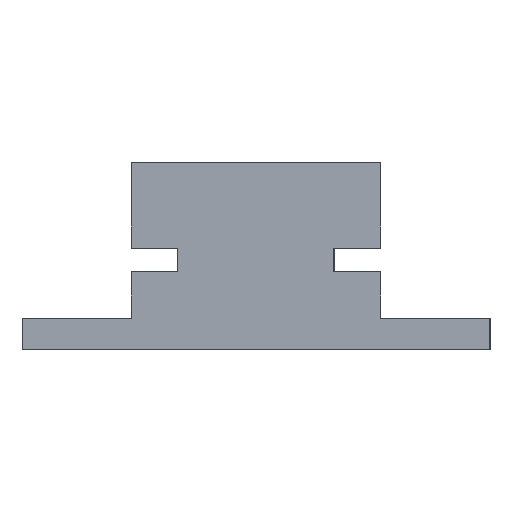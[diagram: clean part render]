
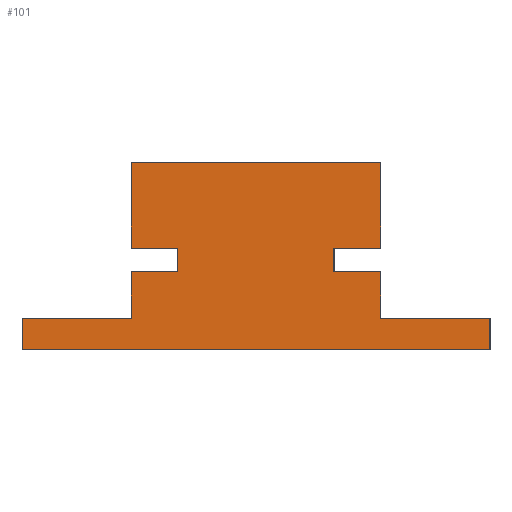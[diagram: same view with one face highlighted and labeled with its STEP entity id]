
A CAD part, left-side view. The second image highlights one B-rep face of the part: STEP entity #101.
In plain terms, the highlighted planar face has unit normal (-1, 0, 0).
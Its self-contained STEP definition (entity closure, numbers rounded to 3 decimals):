
#6 = VERTEX_POINT ( 'NONE', #417 ) ;
#7 = VERTEX_POINT ( 'NONE', #132 ) ;
#9 = ORIENTED_EDGE ( 'NONE', *, *, #479, .F. ) ;
#20 = VERTEX_POINT ( 'NONE', #185 ) ;
#21 = VECTOR ( 'NONE', #117, 1000. ) ;
#23 = CARTESIAN_POINT ( 'NONE',  ( 0., -5., 5. ) ) ;
#30 = EDGE_CURVE ( 'NONE', #567, #100, #301, .T. ) ;
#31 = CARTESIAN_POINT ( 'NONE',  ( 0., -7.997, 12. ) ) ;
#40 = EDGE_CURVE ( 'NONE', #240, #516, #476, .T. ) ;
#41 = CARTESIAN_POINT ( 'NONE',  ( 0., -7.997, 5. ) ) ;
#43 = DIRECTION ( 'NONE',  ( 1., 0., 0. ) ) ;
#51 = DIRECTION ( 'NONE',  ( 0., 0., -1. ) ) ;
#52 = DIRECTION ( 'NONE',  ( 0., 0., 1. ) ) ;
#56 = CARTESIAN_POINT ( 'NONE',  ( 0., -15., 2. ) ) ;
#63 = LINE ( 'NONE', #549, #172 ) ;
#74 = VECTOR ( 'NONE', #590, 1000. ) ;
#79 = DIRECTION ( 'NONE',  ( 0., 0., 1. ) ) ;
#80 = CARTESIAN_POINT ( 'NONE',  ( 0., -7.997, 6.5 ) ) ;
#87 = CARTESIAN_POINT ( 'NONE',  ( 0., 8.003, 2. ) ) ;
#91 = EDGE_CURVE ( 'NONE', #20, #376, #107, .T. ) ;
#95 = DIRECTION ( 'NONE',  ( 0., 0., -1. ) ) ;
#100 = VERTEX_POINT ( 'NONE', #270 ) ;
#101 = ADVANCED_FACE ( 'NONE', ( #160 ), #591, .F. ) ;
#103 = ORIENTED_EDGE ( 'NONE', *, *, #127, .F. ) ;
#107 = LINE ( 'NONE', #235, #520 ) ;
#117 = DIRECTION ( 'NONE',  ( 0., 0., -1. ) ) ;
#124 = CARTESIAN_POINT ( 'NONE',  ( 0., 15., 0. ) ) ;
#127 = EDGE_CURVE ( 'NONE', #7, #6, #150, .T. ) ;
#129 = CARTESIAN_POINT ( 'NONE',  ( 0., -15., 2. ) ) ;
#131 = DIRECTION ( 'NONE',  ( 0., -1., 0. ) ) ;
#132 = CARTESIAN_POINT ( 'NONE',  ( 0., 8.003, 5. ) ) ;
#137 = ORIENTED_EDGE ( 'NONE', *, *, #485, .F. ) ;
#141 = VERTEX_POINT ( 'NONE', #322 ) ;
#142 = ORIENTED_EDGE ( 'NONE', *, *, #562, .F. ) ;
#145 = EDGE_CURVE ( 'NONE', #376, #307, #183, .T. ) ;
#149 = LINE ( 'NONE', #316, #537 ) ;
#150 = LINE ( 'NONE', #232, #199 ) ;
#152 = EDGE_CURVE ( 'NONE', #291, #584, #269, .T. ) ;
#157 = ORIENTED_EDGE ( 'NONE', *, *, #492, .F. ) ;
#160 = FACE_OUTER_BOUND ( 'NONE', #254, .T. ) ;
#161 = EDGE_CURVE ( 'NONE', #6, #20, #167, .T. ) ;
#167 = LINE ( 'NONE', #321, #74 ) ;
#169 = CARTESIAN_POINT ( 'NONE',  ( 0., -5., 6.5 ) ) ;
#172 = VECTOR ( 'NONE', #233, 1000. ) ;
#178 = DIRECTION ( 'NONE',  ( 0., 1., 0. ) ) ;
#183 = LINE ( 'NONE', #470, #533 ) ;
#185 = CARTESIAN_POINT ( 'NONE',  ( 0., 5., 6.5 ) ) ;
#195 = ORIENTED_EDGE ( 'NONE', *, *, #241, .F. ) ;
#198 = LINE ( 'NONE', #495, #21 ) ;
#199 = VECTOR ( 'NONE', #275, 1000. ) ;
#215 = VERTEX_POINT ( 'NONE', #314 ) ;
#221 = EDGE_CURVE ( 'NONE', #337, #215, #362, .T. ) ;
#224 = DIRECTION ( 'NONE',  ( 0., 0., 1. ) ) ;
#230 = CARTESIAN_POINT ( 'NONE',  ( 0., -15., 0. ) ) ;
#232 = CARTESIAN_POINT ( 'NONE',  ( 0., 8.003, 5. ) ) ;
#233 = DIRECTION ( 'NONE',  ( 0., 1., 0. ) ) ;
#235 = CARTESIAN_POINT ( 'NONE',  ( 0., 5., 6.5 ) ) ;
#240 = VERTEX_POINT ( 'NONE', #363 ) ;
#241 = EDGE_CURVE ( 'NONE', #215, #554, #556, .T. ) ;
#254 = EDGE_LOOP ( 'NONE', ( #587, #572, #586, #103, #570, #195, #264, #432, #317, #402, #536, #9, #157, #294, #137, #142 ) ) ;
#256 = VECTOR ( 'NONE', #224, 1000. ) ;
#260 = CARTESIAN_POINT ( 'NONE',  ( 0., 8.003, 6.5 ) ) ;
#264 = ORIENTED_EDGE ( 'NONE', *, *, #221, .F. ) ;
#269 = LINE ( 'NONE', #56, #380 ) ;
#270 = CARTESIAN_POINT ( 'NONE',  ( 0., -7.997, 2. ) ) ;
#275 = DIRECTION ( 'NONE',  ( 0., -1., 0. ) ) ;
#285 = VERTEX_POINT ( 'NONE', #411 ) ;
#291 = VERTEX_POINT ( 'NONE', #129 ) ;
#294 = ORIENTED_EDGE ( 'NONE', *, *, #40, .F. ) ;
#300 = VECTOR ( 'NONE', #305, 1000. ) ;
#301 = LINE ( 'NONE', #364, #429 ) ;
#305 = DIRECTION ( 'NONE',  ( 0., -1., 0. ) ) ;
#307 = VERTEX_POINT ( 'NONE', #448 ) ;
#308 = LINE ( 'NONE', #579, #300 ) ;
#310 = CARTESIAN_POINT ( 'NONE',  ( 0., 15., 2. ) ) ;
#313 = DIRECTION ( 'NONE',  ( 0., 1., 0. ) ) ;
#314 = CARTESIAN_POINT ( 'NONE',  ( 0., 15., 2. ) ) ;
#315 = AXIS2_PLACEMENT_3D ( 'NONE', #511, #43, #367 ) ;
#316 = CARTESIAN_POINT ( 'NONE',  ( 0., 8.003, 12. ) ) ;
#317 = ORIENTED_EDGE ( 'NONE', *, *, #152, .F. ) ;
#318 = LINE ( 'NONE', #31, #517 ) ;
#321 = CARTESIAN_POINT ( 'NONE',  ( 0., 5., 5. ) ) ;
#322 = CARTESIAN_POINT ( 'NONE',  ( 0., -5., 5. ) ) ;
#337 = VERTEX_POINT ( 'NONE', #469 ) ;
#362 = LINE ( 'NONE', #124, #419 ) ;
#363 = CARTESIAN_POINT ( 'NONE',  ( 0., -7.997, 6.5 ) ) ;
#364 = CARTESIAN_POINT ( 'NONE',  ( 0., -7.997, 5. ) ) ;
#367 = DIRECTION ( 'NONE',  ( 0., 0., -1. ) ) ;
#376 = VERTEX_POINT ( 'NONE', #260 ) ;
#379 = LINE ( 'NONE', #87, #256 ) ;
#380 = VECTOR ( 'NONE', #95, 1000. ) ;
#392 = VECTOR ( 'NONE', #178, 1000. ) ;
#401 = DIRECTION ( 'NONE',  ( 0., 0., -1. ) ) ;
#402 = ORIENTED_EDGE ( 'NONE', *, *, #413, .F. ) ;
#411 = CARTESIAN_POINT ( 'NONE',  ( 0., -7.997, 12. ) ) ;
#413 = EDGE_CURVE ( 'NONE', #100, #291, #308, .T. ) ;
#417 = CARTESIAN_POINT ( 'NONE',  ( 0., 5., 5. ) ) ;
#419 = VECTOR ( 'NONE', #79, 1000. ) ;
#428 = VECTOR ( 'NONE', #444, 1000. ) ;
#429 = VECTOR ( 'NONE', #51, 1000. ) ;
#432 = ORIENTED_EDGE ( 'NONE', *, *, #569, .F. ) ;
#434 = LINE ( 'NONE', #23, #428 ) ;
#444 = DIRECTION ( 'NONE',  ( 0., -1., 0. ) ) ;
#448 = CARTESIAN_POINT ( 'NONE',  ( 0., 8.003, 12. ) ) ;
#463 = DIRECTION ( 'NONE',  ( 0., -1., 0. ) ) ;
#469 = CARTESIAN_POINT ( 'NONE',  ( 0., 15., 0. ) ) ;
#470 = CARTESIAN_POINT ( 'NONE',  ( 0., 8.003, 6.5 ) ) ;
#473 = VECTOR ( 'NONE', #131, 1000. ) ;
#476 = LINE ( 'NONE', #80, #392 ) ;
#479 = EDGE_CURVE ( 'NONE', #141, #567, #434, .T. ) ;
#485 = EDGE_CURVE ( 'NONE', #285, #240, #318, .T. ) ;
#492 = EDGE_CURVE ( 'NONE', #516, #141, #198, .T. ) ;
#495 = CARTESIAN_POINT ( 'NONE',  ( 0., -5., 6.5 ) ) ;
#500 = CARTESIAN_POINT ( 'NONE',  ( 0., 8.003, 2. ) ) ;
#511 = CARTESIAN_POINT ( 'NONE',  ( 0., 0., 0. ) ) ;
#516 = VERTEX_POINT ( 'NONE', #169 ) ;
#517 = VECTOR ( 'NONE', #401, 1000. ) ;
#520 = VECTOR ( 'NONE', #313, 1000. ) ;
#533 = VECTOR ( 'NONE', #52, 1000. ) ;
#536 = ORIENTED_EDGE ( 'NONE', *, *, #30, .F. ) ;
#537 = VECTOR ( 'NONE', #463, 1000. ) ;
#549 = CARTESIAN_POINT ( 'NONE',  ( 0., -15., 0. ) ) ;
#554 = VERTEX_POINT ( 'NONE', #500 ) ;
#556 = LINE ( 'NONE', #310, #473 ) ;
#562 = EDGE_CURVE ( 'NONE', #307, #285, #149, .T. ) ;
#566 = EDGE_CURVE ( 'NONE', #554, #7, #379, .T. ) ;
#567 = VERTEX_POINT ( 'NONE', #41 ) ;
#569 = EDGE_CURVE ( 'NONE', #584, #337, #63, .T. ) ;
#570 = ORIENTED_EDGE ( 'NONE', *, *, #566, .F. ) ;
#572 = ORIENTED_EDGE ( 'NONE', *, *, #91, .F. ) ;
#579 = CARTESIAN_POINT ( 'NONE',  ( 0., -7.997, 2. ) ) ;
#584 = VERTEX_POINT ( 'NONE', #230 ) ;
#586 = ORIENTED_EDGE ( 'NONE', *, *, #161, .F. ) ;
#587 = ORIENTED_EDGE ( 'NONE', *, *, #145, .F. ) ;
#590 = DIRECTION ( 'NONE',  ( 0., 0., 1. ) ) ;
#591 = PLANE ( 'NONE',  #315 ) ;
